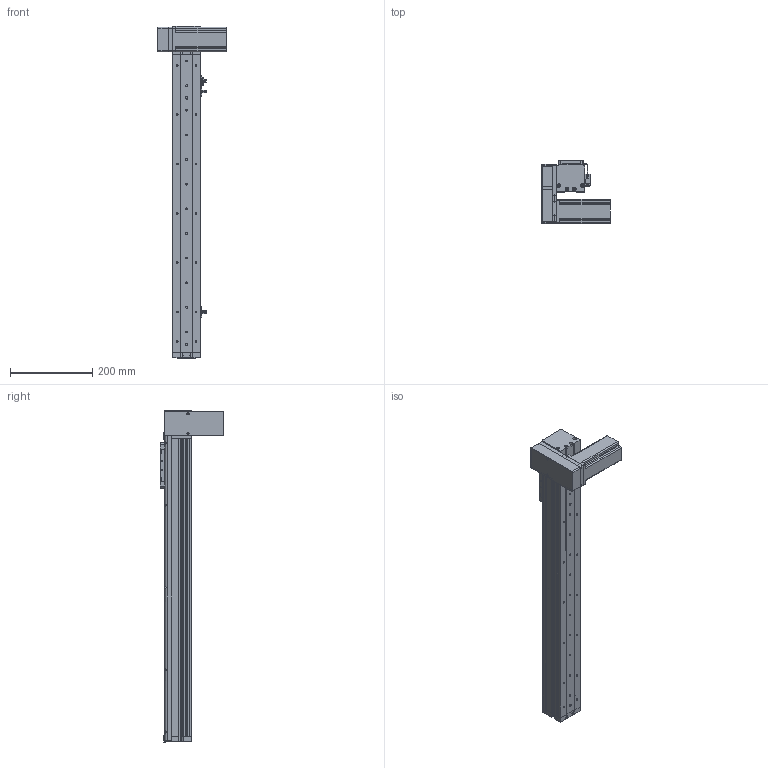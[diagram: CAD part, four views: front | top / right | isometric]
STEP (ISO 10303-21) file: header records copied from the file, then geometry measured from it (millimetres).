
FILE_DESCRIPTION (( 'STEP AP214' ), '1' );
FILE_NAME ('KSD68BS-S550-MRD-CR.STEP', '2019-11-08T03:08:11', ( '微软用户' ), ( '微软中国' ), 'SwSTEP 2.0', 'SolidWorks 2014', '' );
FILE_SCHEMA (( 'AUTOMOTIVE_DESIGN' ));
Length unit declared in the file: millimetre
Products named in the file (14): 悵誘欶奻狟殏; 68宽马达安装板连板上折同步带; 感应片68宽全封闭; U倰嫖萇EEㄜSX672; 台达ECMA－C20604AS伺服电机（400W); KSD68BS 550行程底板全封闭; KSD68BS-S550-MRD-CR; 68遵裔啣揤啣1; KSD68BS 550行程盖板全封闭; 68宽单导轨全封闭丝杆传动安装板1防护罩; KSD68BS 550行程侧板全封闭; 68宽单导轨全封闭同步带端板; 68单导轨全封闭同步带电机座右; 68单导轨全封闭同步带安装板
Assembly tree (17 placements, depth 2):
  KSD68BS-S550-MRD-CR
    KSD68BS 550行程底板全封闭
    台达ECMA－C20604AS伺服电机（400W)
    U倰嫖萇EEㄜSX672  x3
    感应片68宽全封闭
    68宽马达安装板连板上折同步带
    悵誘欶奻狟殏
    68单导轨全封闭同步带安装板
    68单导轨全封闭同步带电机座右
    68宽单导轨全封闭同步带端板
    KSD68BS 550行程侧板全封闭  x2
    68宽单导轨全封闭丝杆传动安装板1防护罩
    68遵裔啣揤啣1  x2
    KSD68BS 550行程盖板全封闭
Bounding box: 167.2 x 155.5 x 808.1 mm (x, y, z)
Volume: 1930713.2 mm3; surface area: 686279.8 mm2
Topology: 18 solids, 18 shells, 1440 faces, 4069 edges, 2609 vertices
Faces by surface type: cylinder 665, plane 627, cone 148
Entity records: 44934 total; most frequent: CARTESIAN_POINT 7593, DIRECTION 6775, ORIENTED_EDGE 6482, EDGE_CURVE 3241, AXIS2_PLACEMENT_3D 2425, VERTEX_POINT 2127, LINE 1925, VECTOR 1925
